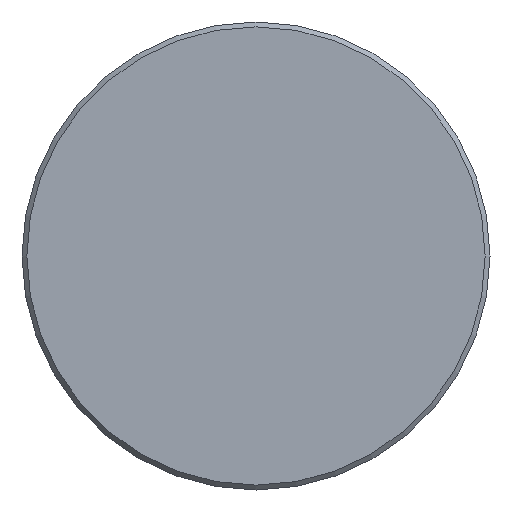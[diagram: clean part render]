
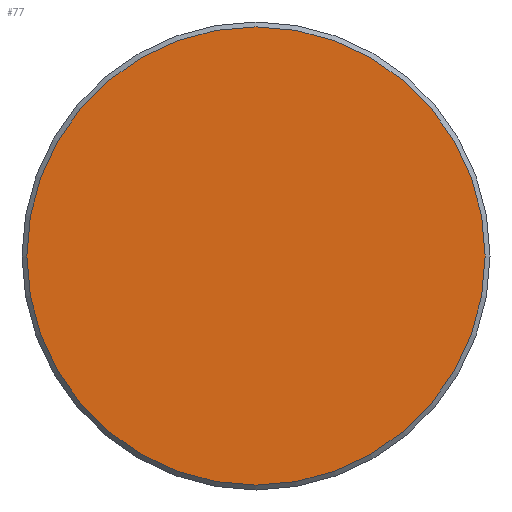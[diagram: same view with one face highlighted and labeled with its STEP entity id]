
A CAD part, front view. The second image highlights one B-rep face of the part: STEP entity #77.
In plain terms, the highlighted planar face has unit normal (0, -1, 0).
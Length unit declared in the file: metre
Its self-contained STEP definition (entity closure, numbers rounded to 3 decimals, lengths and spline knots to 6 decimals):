
#77 = ADVANCED_FACE( '', ( #90 ), #91, .T. );
#90 = FACE_OUTER_BOUND( '', #121, .T. );
#91 = PLANE( '', #122 );
#121 = EDGE_LOOP( '', ( #152 ) );
#122 = AXIS2_PLACEMENT_3D( '', #153, #154, #155 );
#152 = ORIENTED_EDGE( '', *, *, #205, .T. );
#153 = CARTESIAN_POINT( '', ( 0., 0., 0. ) );
#154 = DIRECTION( '', ( 0., -1., 0. ) );
#155 = DIRECTION( '', ( 0., 0., -1. ) );
#205 = EDGE_CURVE( '', #215, #215, #216, .T. );
#215 = VERTEX_POINT( '', #235 );
#216 = CIRCLE( '', #236, 0.0235 );
#235 = CARTESIAN_POINT( '', ( 0., 0., -0.0235 ) );
#236 = AXIS2_PLACEMENT_3D( '', #255, #256, #257 );
#255 = CARTESIAN_POINT( '', ( 0., 0., 0. ) );
#256 = DIRECTION( '', ( 0., -1., 0. ) );
#257 = DIRECTION( '', ( 0., 0., -1. ) );
